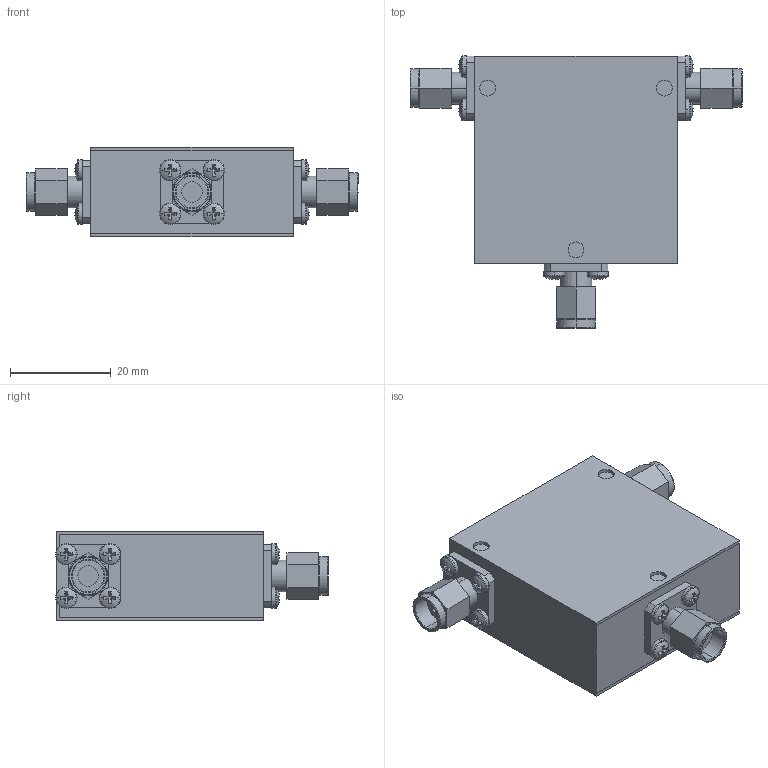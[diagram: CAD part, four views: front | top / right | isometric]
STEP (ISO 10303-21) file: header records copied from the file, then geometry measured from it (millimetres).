
FILE_DESCRIPTION (( 'STEP AP214' ), '1' );
FILE_NAME ('Package 1 Circ MMM.step', '2021-12-01T20:56:25', ( '' ), ( '' ), 'SwSTEP 2.0', 'SolidWorks 2016', '' );
FILE_SCHEMA (( 'AUTOMOTIVE_DESIGN' ));
Length unit declared in the file: inch
Products named in the file (5): Package Size 1; pan cross head_ai_CR-PHMS 0.086-56x0.125x0.125-N; Package 1; Package 1 Circ MMM; Delta SMA-Male
Assembly tree (17 placements, depth 2):
  Package 1 Circ MMM
    Package Size 1
    Package 1
    Delta SMA-Male  x3
    pan cross head_ai_CR-PHMS 0.086-56x0.125x0.125-N  x12
Bounding box: 65.89 x 54.11 x 17.78 mm (x, y, z)
Volume: 31221.9 mm3; surface area: 17461 mm2
Topology: 17 solids, 17 shells, 445 faces, 1014 edges, 624 vertices
Faces by surface type: plane 259, cylinder 120, torus 42, sphere 24
Entity records: 3248 total; most frequent: DIRECTION 584, CARTESIAN_POINT 504, ORIENTED_EDGE 472, EDGE_CURVE 236, AXIS2_PLACEMENT_3D 230, VERTEX_POINT 150, VECTOR 124, LINE 124
